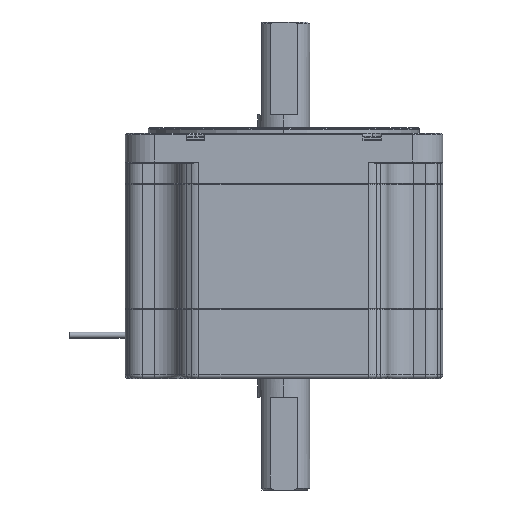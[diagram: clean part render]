
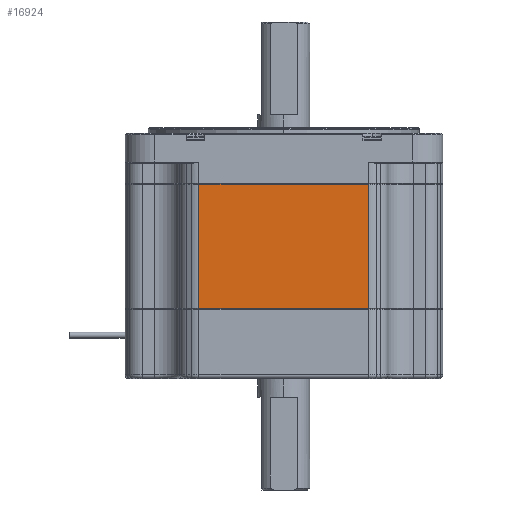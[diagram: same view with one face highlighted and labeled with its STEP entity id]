
A CAD part, left-side view. The second image highlights one B-rep face of the part: STEP entity #16924.
In plain terms, the highlighted planar face has unit normal (-1, 0, 0).
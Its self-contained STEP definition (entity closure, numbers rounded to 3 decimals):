
#2368 = FACE_OUTER_BOUND ( 'NONE', #13884, .T. ) ;
#2441 = LINE ( 'NONE', #8180, #6755 ) ;
#2443 = LINE ( 'NONE', #8206, #6761 ) ;
#2445 = LINE ( 'NONE', #8108, #6763 ) ;
#2447 = LINE ( 'NONE', #8184, #6764 ) ;
#6500 = CARTESIAN_POINT ( 'NONE',  ( -42.75, -22.879, -47.1 ) ) ;
#6755 = VECTOR ( 'NONE', #8194, 1000. ) ;
#6761 = VECTOR ( 'NONE', #8185, 1000. ) ;
#6763 = VECTOR ( 'NONE', #8190, 1000. ) ;
#6764 = VECTOR ( 'NONE', #8210, 1000. ) ;
#7704 = VERTEX_POINT ( 'NONE', #9357 ) ;
#7716 = VERTEX_POINT ( 'NONE', #9341 ) ;
#7741 = VERTEX_POINT ( 'NONE', #9309 ) ;
#8108 = CARTESIAN_POINT ( 'NONE',  ( -42.75, 22.879, -47.3 ) ) ;
#8180 = CARTESIAN_POINT ( 'NONE',  ( -42.75, -22.879, -47.3 ) ) ;
#8184 = CARTESIAN_POINT ( 'NONE',  ( -42.75, 22.879, -13.7 ) ) ;
#8185 = DIRECTION ( 'NONE',  ( 0., -1., 0. ) ) ;
#8190 = DIRECTION ( 'NONE',  ( 0., 0., 1. ) ) ;
#8194 = DIRECTION ( 'NONE',  ( 0., 0., 1. ) ) ;
#8206 = CARTESIAN_POINT ( 'NONE',  ( -42.75, 22.879, -47.1 ) ) ;
#8210 = DIRECTION ( 'NONE',  ( 0., 1., 0. ) ) ;
#9309 = CARTESIAN_POINT ( 'NONE',  ( -42.75, -22.879, -13.7 ) ) ;
#9341 = CARTESIAN_POINT ( 'NONE',  ( -42.75, 22.879, -47.1 ) ) ;
#9357 = CARTESIAN_POINT ( 'NONE',  ( -42.75, 22.879, -13.7 ) ) ;
#10666 = ORIENTED_EDGE ( 'NONE', *, *, #11199, .T. ) ;
#10667 = ORIENTED_EDGE ( 'NONE', *, *, #11201, .T. ) ;
#10668 = ORIENTED_EDGE ( 'NONE', *, *, #11203, .T. ) ;
#10669 = ORIENTED_EDGE ( 'NONE', *, *, #11200, .F. ) ;
#11199 = EDGE_CURVE ( 'NONE', #7741, #7704, #2447, .T. ) ;
#11200 = EDGE_CURVE ( 'NONE', #7716, #7704, #2445, .T. ) ;
#11201 = EDGE_CURVE ( 'NONE', #7716, #19288, #2443, .T. ) ;
#11203 = EDGE_CURVE ( 'NONE', #19288, #7741, #2441, .T. ) ;
#13464 = PLANE ( 'NONE',  #18547 ) ;
#13465 = CARTESIAN_POINT ( 'NONE',  ( -42.75, 22.879, -47.3 ) ) ;
#13466 = DIRECTION ( 'NONE',  ( 1., 0., 0. ) ) ;
#13467 = DIRECTION ( 'NONE',  ( 0., 0., -1. ) ) ;
#13884 = EDGE_LOOP ( 'NONE', ( #10669, #10667, #10668, #10666 ) ) ;
#16924 = ADVANCED_FACE ( 'NONE', ( #2368 ), #13464, .F. ) ;
#18547 = AXIS2_PLACEMENT_3D ( 'NONE', #13465, #13466, #13467 ) ;
#19288 = VERTEX_POINT ( 'NONE', #6500 ) ;
